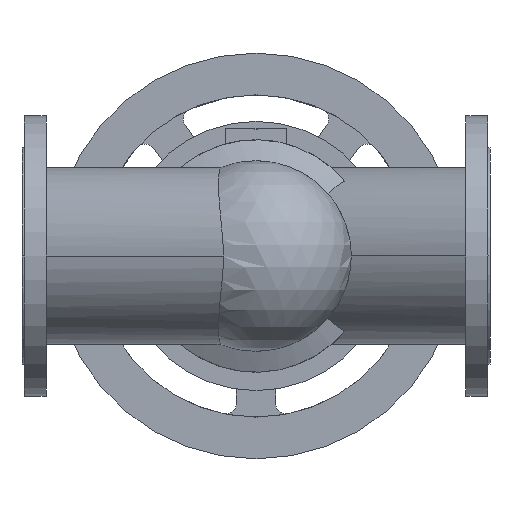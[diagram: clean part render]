
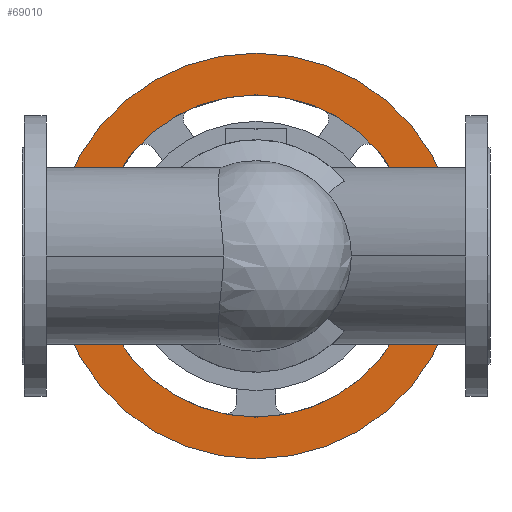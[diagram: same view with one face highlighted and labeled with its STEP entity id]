
A CAD part, front view. The second image highlights one B-rep face of the part: STEP entity #69010.
In plain terms, the highlighted planar face has unit normal (0, -1, 0).
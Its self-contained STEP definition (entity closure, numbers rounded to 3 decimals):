
#58110=CARTESIAN_POINT('',(93.5,699.8,0.));
#58120=VERTEX_POINT('',#58110);
#58150=CARTESIAN_POINT('',(300.,699.8,0.));
#58160=DIRECTION('',(0.,1.,0.));
#58170=DIRECTION('',(1.,0.,0.));
#58180=AXIS2_PLACEMENT_3D('',#58150,#58160,#58170);
#58190=CIRCLE('',#58180,206.5);
#58200=CARTESIAN_POINT('',(506.5,699.8,0.));
#58210=VERTEX_POINT('',#58200);
#58220=EDGE_CURVE('',#58120,#58210,#58190,.T.);
#68630=CARTESIAN_POINT('',(560.,699.8,0.));
#68640=VERTEX_POINT('',#68630);
#68670=CARTESIAN_POINT('',(300.,699.8,0.));
#68680=DIRECTION('',(0.,1.,0.));
#68690=DIRECTION('',(1.,0.,0.));
#68700=AXIS2_PLACEMENT_3D('',#68670,#68680,#68690);
#68710=CIRCLE('',#68700,260.);
#68720=CARTESIAN_POINT('',(40.,699.8,0.));
#68730=VERTEX_POINT('',#68720);
#68740=EDGE_CURVE('',#68730,#68640,#68710,.T.);
#68860=CARTESIAN_POINT('',(533.25,699.8,0.));
#68870=DIRECTION('',(0.,-1.,0.));
#68880=DIRECTION('',(-1.,0.,0.));
#68890=AXIS2_PLACEMENT_3D('',#68860,#68870,#68880);
#68900=PLANE('',#68890);
#68910=ORIENTED_EDGE('',*,*,#68740,.F.);
#68920=EDGE_CURVE('',#68640,#68730,#68710,.T.);
#68930=ORIENTED_EDGE('',*,*,#68920,.F.);
#68940=EDGE_LOOP('',(#68930,#68910));
#68950=FACE_OUTER_BOUND('',#68940,.T.);
#68960=ORIENTED_EDGE('',*,*,#58220,.T.);
#68970=EDGE_CURVE('',#58210,#58120,#58190,.T.);
#68980=ORIENTED_EDGE('',*,*,#68970,.T.);
#68990=EDGE_LOOP('',(#68980,#68960));
#69000=FACE_BOUND('',#68990,.T.);
#69010=ADVANCED_FACE('',(#68950,#69000),#68900,.T.);
